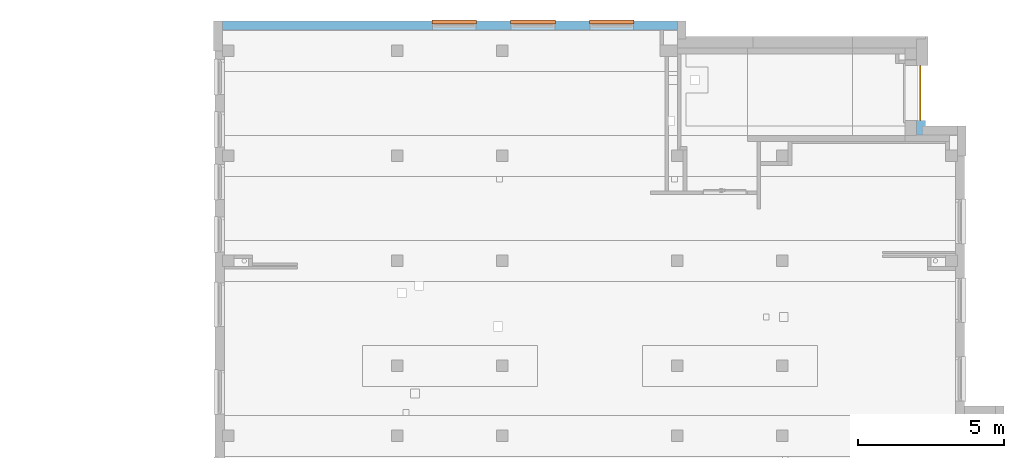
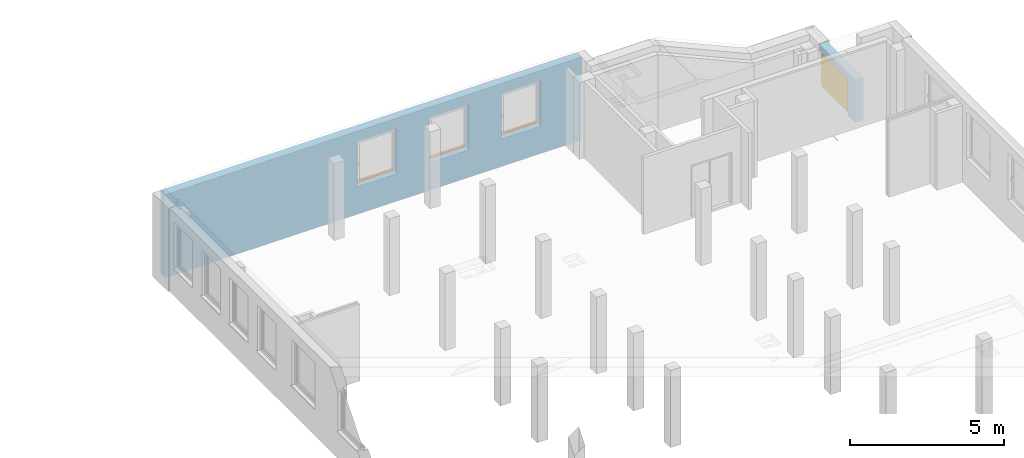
# One storey, part 25 of 27: 3 proxies, 1 window, 4 openings, plus 2 elements that do not belong to this part.
"""IFC4 building model written with IfcOpenShell, lengths in metres."""

from ifc_helpers import new_model, entity, si_unit, converted_unit, derived_unit, frame, frame_2d, origin, origin_with_axes, place, context, subcontext, project, spatial, polyline, rectangle, outline, extrude, faceted_brep, source, transform, mapped, material, layer, layer_set, layer_usage, element, fill, save


model = new_model("IFC4")

# Units and contexts
model_context = context("Model", 3, precision=1e-05, world=origin())
body_context = subcontext(model_context, "Body", "Model", "MODEL_VIEW")
ifc_project = project(units=[si_unit("LENGTHUNIT", "METRE"), si_unit("AREAUNIT", "SQUARE_METRE"), si_unit("VOLUMEUNIT", "CUBIC_METRE"), si_unit("MASSUNIT", "GRAM", prefix="KILO"), converted_unit("PLANEANGLEUNIT", "DEGREE", entity("IfcPlaneAngleMeasure", 0.0174532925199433), si_unit("PLANEANGLEUNIT", "RADIAN"), dimensions=[0, 0, 0, 0, 0, 0, 0]), derived_unit("THERMALTRANSMITTANCEUNIT", [(si_unit("POWERUNIT", "WATT"), 1), (si_unit("THERMODYNAMICTEMPERATUREUNIT", "KELVIN"), -1), (si_unit("LENGTHUNIT", "METRE"), -2)]), derived_unit("VOLUMETRICFLOWRATEUNIT", [(si_unit("LENGTHUNIT", "METRE"), 3), (converted_unit("TIMEUNIT", "hour", entity("IfcTimeMeasure", 3600.0), si_unit("TIMEUNIT", "SECOND"), dimensions=[0, 0, 1, 0, 0, 0, 0]), -1), (si_unit("LENGTHUNIT", "METRE"), -1)])], contexts=[model_context])

# Site, building, storey
site_placement = place(None, origin())
site = spatial("IfcSite", under=ifc_project, at=site_placement, Name="3. ASŘ", CompositionType="ELEMENT")
building_placement = place(site_placement, origin())
building = spatial("IfcBuilding", under=site, at=building_placement, Name="Pavilon C", CompositionType="ELEMENT")
storey_placement = place(building_placement, frame((0.0, 0.0, 10.5)))
storey = spatial("IfcBuildingStorey", under=building, at=storey_placement, Name="Půdorys 4.NP", CompositionType="ELEMENT", Elevation=10.5)

# Wall, openings, proxies
ifc_material_1 = material(Name="ZELEZOBETONOVÁ KCE")
ifc_layer_1 = layer(ifc_material_1, 0.3)
ifc_layer_set_1 = layer_set([ifc_layer_1])
ifc_layer_usage_1 = layer_usage(ifc_layer_set_1, "AXIS2", "POSITIVE", 0.0)
wall_1_placement = place(storey_placement, frame((40.35, 33.42, -0.1), z_axis=(0.0, 0.0, 1.0), x_axis=(-1.0, 0.0, 0.0)))
wall_1 = element("IfcWall", 1, at=wall_1_placement, inside=storey, material=ifc_layer_usage_1, Name="ZELEZOBETONOVÁ KCE", context=body_context, shape_type="SweptSolid", body=[
    extrude(rectangle(XDim=15.6, YDim=0.3, at=frame_2d((7.8, 0.15), x_axis=(1.0, 0.0))), origin_with_axes(), (0.0, 0.0, 1.0), 3.3),
])
opening_1_placement = place(wall_1_placement, frame((6.9, 0.0, 1.1), z_axis=(0.0, 1.0, 0.0), x_axis=(0.0, 0.0, 1.0)))
opening_1 = element("IfcOpeningElement", 2, at=opening_1_placement, cuts=wall_1, Name="Okenní otvor", ObjectType="Opening", context=body_context, shape_type="SweptSolid", body=[
    extrude(outline(polyline([(0.0, 1.5), (1.8, 1.5), (1.8, 0.0), (0.0, 0.0), (0.0, 1.5)])), origin_with_axes(), (0.0, 0.0, 1.0), 0.3),
])
opening_2_placement = place(wall_1_placement, frame((4.2, 0.0, 1.1), z_axis=(0.0, 1.0, 0.0), x_axis=(0.0, 0.0, 1.0)))
opening_2 = element("IfcOpeningElement", 3, at=opening_2_placement, cuts=wall_1, Name="Okenní otvor", ObjectType="Opening", context=body_context, shape_type="SweptSolid", body=[
    extrude(outline(polyline([(0.0, 1.5), (1.8, 1.5), (1.8, 0.0), (0.0, 0.0), (0.0, 1.5)])), origin_with_axes(), (0.0, 0.0, 1.0), 0.3),
])
opening_3_placement = place(wall_1_placement, frame((1.5, 0.0, 1.1), z_axis=(0.0, 1.0, 0.0), x_axis=(0.0, 0.0, 1.0)))
opening_3 = element("IfcOpeningElement", 4, at=opening_3_placement, cuts=wall_1, Name="Okenní otvor", ObjectType="Opening", context=body_context, shape_type="SweptSolid", body=[
    extrude(outline(polyline([(0.0, 1.5), (1.8, 1.5), (1.8, 0.0), (0.0, 0.0), (0.0, 1.5)])), origin_with_axes(), (0.0, 0.0, 1.0), 0.3),
])
ifc_material_2 = material(Name="PLECH")
shared_shape_1 = source(origin_with_axes(), body_context, "Body", "Brep", [
    faceted_brep([(0.0, 0.0, 0.0), (0.0, 0.1, 0.0), (0.0, 0.1, 0.005), (0.0, 0.0, 0.005), (1.5, 0.0, 0.0), (1.5, 0.0, 0.005), (1.5, 0.1, 0.005), (1.5, 0.1, 0.0), (-0.02, 0.0, 0.0), (-0.02, -0.035, 0.0), (1.52, -0.035, 0.0), (1.52, 0.0, 0.0), (1.52, 0.0, 0.005), (1.52, -0.04, 0.005), (-0.02, -0.04, 0.005), (-0.02, 0.0, 0.005), (-0.02, -0.04, -0.025), (-0.02, -0.035, -0.025), (1.52, -0.035, -0.025), (1.52, -0.04, -0.025)], [[[0, 1, 2, 3]], [[4, 5, 6, 7]], [[1, 0, 8, 9, 10, 11, 4, 7]], [[2, 1, 7, 6]], [[3, 2, 6, 5, 12, 13, 14, 15]], [[8, 15, 14, 16, 17, 9]], [[11, 10, 18, 19, 13, 12]], [[15, 8, 0, 3]], [[5, 4, 11, 12]], [[16, 14, 13, 19]], [[17, 16, 19, 18]], [[9, 17, 18, 10]]], orient=[[False], [False], [False], [False], [False], [False], [False], [False], [False], [False], [False], [False]]),
    faceted_brep([(-0.02, 0.0, 0.0), (-0.02, 0.1, 0.0), (-0.02, 0.1, 0.005), (-0.02, 0.0, 0.005), (0.0, 0.0, 0.0), (0.0, 0.0, 0.005), (0.0, 0.1, 0.005), (0.0, 0.1, 0.0)], [[[0, 1, 2, 3]], [[4, 5, 6, 7]], [[1, 0, 4, 7]], [[2, 1, 7, 6]], [[3, 2, 6, 5]], [[0, 3, 5, 4]]], orient=[[False], [False], [False], [False], [False], [False]]),
    faceted_brep([(1.5, 0.0, 0.0), (1.5, 0.1, 0.0), (1.5, 0.1, 0.005), (1.5, 0.0, 0.005), (1.52, 0.0, 0.0), (1.52, 0.0, 0.005), (1.52, 0.1, 0.005), (1.52, 0.1, 0.0)], [[[0, 1, 2, 3]], [[4, 5, 6, 7]], [[1, 0, 4, 7]], [[2, 1, 7, 6]], [[3, 2, 6, 5]], [[0, 3, 5, 4]]], orient=[[False], [False], [False], [False], [False], [False]]),
])
proxy_1_placement = place(opening_1_placement, frame((0.0, 0.0, 0.0), z_axis=(1.0, 0.0, 0.0), x_axis=(0.0, 1.0, 0.0)))
proxy_1 = element("IfcBuildingElementProxy", 5, at=proxy_1_placement, inside=storey, material=ifc_material_2, Name="Parapet vnější", context=body_context, shape_type="MappedRepresentation", body=[
    mapped(shared_shape_1, transform((0.0, 0.0, 0.0), x_axis=(1.0, 0.0, 0.0), y_axis=(0.0, 1.0, 0.0), z_axis=(0.0, 0.0, 1.0), scale=1.0)),
])
fill(opening_1, proxy_1)
ifc_material_3 = material(Name="PLECH")
shared_shape_2 = source(origin_with_axes(), body_context, "Body", "Brep", [
    faceted_brep([(0.0, 0.0, 0.0), (0.0, 0.1, 0.0), (0.0, 0.1, 0.005), (0.0, 0.0, 0.005), (1.5, 0.0, 0.0), (1.5, 0.0, 0.005), (1.5, 0.1, 0.005), (1.5, 0.1, 0.0), (-0.02, 0.0, 0.0), (-0.02, -0.035, 0.0), (1.52, -0.035, 0.0), (1.52, 0.0, 0.0), (1.52, 0.0, 0.005), (1.52, -0.04, 0.005), (-0.02, -0.04, 0.005), (-0.02, 0.0, 0.005), (-0.02, -0.04, -0.025), (-0.02, -0.035, -0.025), (1.52, -0.035, -0.025), (1.52, -0.04, -0.025)], [[[0, 1, 2, 3]], [[4, 5, 6, 7]], [[1, 0, 8, 9, 10, 11, 4, 7]], [[2, 1, 7, 6]], [[3, 2, 6, 5, 12, 13, 14, 15]], [[8, 15, 14, 16, 17, 9]], [[11, 10, 18, 19, 13, 12]], [[15, 8, 0, 3]], [[5, 4, 11, 12]], [[16, 14, 13, 19]], [[17, 16, 19, 18]], [[9, 17, 18, 10]]], orient=[[False], [False], [False], [False], [False], [False], [False], [False], [False], [False], [False], [False]]),
    faceted_brep([(-0.02, 0.0, 0.0), (-0.02, 0.1, 0.0), (-0.02, 0.1, 0.005), (-0.02, 0.0, 0.005), (0.0, 0.0, 0.0), (0.0, 0.0, 0.005), (0.0, 0.1, 0.005), (0.0, 0.1, 0.0)], [[[0, 1, 2, 3]], [[4, 5, 6, 7]], [[1, 0, 4, 7]], [[2, 1, 7, 6]], [[3, 2, 6, 5]], [[0, 3, 5, 4]]], orient=[[False], [False], [False], [False], [False], [False]]),
    faceted_brep([(1.5, 0.0, 0.0), (1.5, 0.1, 0.0), (1.5, 0.1, 0.005), (1.5, 0.0, 0.005), (1.52, 0.0, 0.0), (1.52, 0.0, 0.005), (1.52, 0.1, 0.005), (1.52, 0.1, 0.0)], [[[0, 1, 2, 3]], [[4, 5, 6, 7]], [[1, 0, 4, 7]], [[2, 1, 7, 6]], [[3, 2, 6, 5]], [[0, 3, 5, 4]]], orient=[[False], [False], [False], [False], [False], [False]]),
])
proxy_2_placement = place(opening_2_placement, frame((0.0, 0.0, 0.0), z_axis=(1.0, 0.0, 0.0), x_axis=(0.0, 1.0, 0.0)))
proxy_2 = element("IfcBuildingElementProxy", 6, at=proxy_2_placement, inside=storey, material=ifc_material_3, Name="Parapet vnější", context=body_context, shape_type="MappedRepresentation", body=[
    mapped(shared_shape_2, transform((0.0, 0.0, 0.0), x_axis=(1.0, 0.0, 0.0), y_axis=(0.0, 1.0, 0.0), z_axis=(0.0, 0.0, 1.0), scale=1.0)),
])
fill(opening_2, proxy_2)
ifc_material_4 = material(Name="PLECH")
shared_shape_3 = source(origin_with_axes(), body_context, "Body", "Brep", [
    faceted_brep([(0.0, 0.0, 0.0), (0.0, 0.1, 0.0), (0.0, 0.1, 0.005), (0.0, 0.0, 0.005), (1.5, 0.0, 0.0), (1.5, 0.0, 0.005), (1.5, 0.1, 0.005), (1.5, 0.1, 0.0), (-0.02, 0.0, 0.0), (-0.02, -0.035, 0.0), (1.52, -0.035, 0.0), (1.52, 0.0, 0.0), (1.52, 0.0, 0.005), (1.52, -0.04, 0.005), (-0.02, -0.04, 0.005), (-0.02, 0.0, 0.005), (-0.02, -0.04, -0.025), (-0.02, -0.035, -0.025), (1.52, -0.035, -0.025), (1.52, -0.04, -0.025)], [[[0, 1, 2, 3]], [[4, 5, 6, 7]], [[1, 0, 8, 9, 10, 11, 4, 7]], [[2, 1, 7, 6]], [[3, 2, 6, 5, 12, 13, 14, 15]], [[8, 15, 14, 16, 17, 9]], [[11, 10, 18, 19, 13, 12]], [[15, 8, 0, 3]], [[5, 4, 11, 12]], [[16, 14, 13, 19]], [[17, 16, 19, 18]], [[9, 17, 18, 10]]], orient=[[False], [False], [False], [False], [False], [False], [False], [False], [False], [False], [False], [False]]),
    faceted_brep([(-0.02, 0.0, 0.0), (-0.02, 0.1, 0.0), (-0.02, 0.1, 0.005), (-0.02, 0.0, 0.005), (0.0, 0.0, 0.0), (0.0, 0.0, 0.005), (0.0, 0.1, 0.005), (0.0, 0.1, 0.0)], [[[0, 1, 2, 3]], [[4, 5, 6, 7]], [[1, 0, 4, 7]], [[2, 1, 7, 6]], [[3, 2, 6, 5]], [[0, 3, 5, 4]]], orient=[[False], [False], [False], [False], [False], [False]]),
    faceted_brep([(1.5, 0.0, 0.0), (1.5, 0.1, 0.0), (1.5, 0.1, 0.005), (1.5, 0.0, 0.005), (1.52, 0.0, 0.0), (1.52, 0.0, 0.005), (1.52, 0.1, 0.005), (1.52, 0.1, 0.0)], [[[0, 1, 2, 3]], [[4, 5, 6, 7]], [[1, 0, 4, 7]], [[2, 1, 7, 6]], [[3, 2, 6, 5]], [[0, 3, 5, 4]]], orient=[[False], [False], [False], [False], [False], [False]]),
])
proxy_3_placement = place(opening_3_placement, frame((0.0, 0.0, 0.0), z_axis=(1.0, 0.0, 0.0), x_axis=(0.0, 1.0, 0.0)))
proxy_3 = element("IfcBuildingElementProxy", 7, at=proxy_3_placement, inside=storey, material=ifc_material_4, Name="Parapet vnější", context=body_context, shape_type="MappedRepresentation", body=[
    mapped(shared_shape_3, transform((0.0, 0.0, 0.0), x_axis=(1.0, 0.0, 0.0), y_axis=(0.0, 1.0, 0.0), z_axis=(0.0, 0.0, 1.0), scale=1.0)),
])
fill(opening_3, proxy_3)

# Wall, opening, window
ifc_material_5 = material(Name="ZDIVO Z CDm")
ifc_layer_2 = layer(ifc_material_5, 0.3)
ifc_layer_set_2 = layer_set([ifc_layer_2])
ifc_layer_usage_2 = layer_usage(ifc_layer_set_2, "AXIS2", "POSITIVE", 0.0)
wall_2_placement = place(storey_placement, frame((48.85, 29.52, -0.1), z_axis=(0.0, 0.0, 1.0), x_axis=(0.0, 1.0, 0.0)))
wall_2 = element("IfcWall", 8, at=wall_2_placement, inside=storey, material=ifc_layer_usage_2, Name="ZDIVO Z CDm", context=body_context, shape_type="SweptSolid", body=[
    extrude(rectangle(XDim=2.375, YDim=0.3, at=frame_2d((1.1875, 0.15), x_axis=(1.0, 0.0))), origin_with_axes(), (0.0, 0.0, 1.0), 1.7),
])
opening_4_placement = place(wall_2_placement, frame((0.499999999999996, 0.0, 0.0), z_axis=(0.0, 1.0, 0.0), x_axis=(0.0, 0.0, 1.0)))
opening_4 = element("IfcOpeningElement", 9, at=opening_4_placement, cuts=wall_2, Name="Okenní otvor", ObjectType="Opening", context=body_context, shape_type="SweptSolid", body=[
    extrude(outline(polyline([(0.0, 1.875), (1.45, 1.875), (1.45, 0.0), (0.0, 0.0), (0.0, 1.875)])), origin_with_axes(), (0.0, 0.0, 1.0), 0.3),
])
shared_shape_4 = source(origin_with_axes(), body_context, "Body", "Brep", [
    faceted_brep([(0.0, 0.0600000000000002, 1.45), (0.0, 0.06, 3.43148696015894e-18), (0.06, 0.06, 3.43148696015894e-18), (0.06, 0.0600000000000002, 1.45), (0.0, 0.0, 1.07793677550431e-17), (0.0, 1.77635683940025e-16, 1.45), (0.06, 1.77635683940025e-16, 1.45), (0.06, 0.0, 1.07793677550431e-17)], [[[0, 1, 2, 3]], [[4, 5, 6, 7]], [[1, 0, 5, 4]], [[2, 1, 4, 7]], [[3, 2, 7, 6]], [[0, 3, 6, 5]]], orient=[[False], [False], [False], [False], [False], [False]]),
    faceted_brep([(1.815, 0.0600000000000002, 1.45), (1.815, 0.06, 3.43148696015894e-18), (1.875, 0.06, 3.43148696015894e-18), (1.875, 0.0600000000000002, 1.45), (1.815, 0.0, 1.07793677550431e-17), (1.815, 1.77635683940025e-16, 1.45), (1.875, 1.77635683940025e-16, 1.45), (1.875, 0.0, 1.07793677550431e-17)], [[[0, 1, 2, 3]], [[4, 5, 6, 7]], [[1, 0, 5, 4]], [[2, 1, 4, 7]], [[3, 2, 7, 6]], [[0, 3, 6, 5]]], orient=[[False], [False], [False], [False], [False], [False]]),
    faceted_brep([(0.06, 0.06, 0.06), (0.06, 0.06, 3.43148696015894e-18), (1.815, 0.06, 3.43148696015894e-18), (1.815, 0.06, 0.06), (0.06, 0.0, 1.07793677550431e-17), (0.06, 7.105427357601e-18, 0.06), (1.815, 7.105427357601e-18, 0.06), (1.815, 0.0, 1.07793677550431e-17)], [[[0, 1, 2, 3]], [[4, 5, 6, 7]], [[1, 0, 5, 4]], [[2, 1, 4, 7]], [[3, 2, 7, 6]], [[0, 3, 6, 5]]], orient=[[False], [False], [False], [False], [False], [False]]),
    faceted_brep([(0.06, 0.0600000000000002, 1.45), (0.06, 0.0600000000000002, 1.39), (1.815, 0.0600000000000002, 1.39), (1.815, 0.0600000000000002, 1.45), (0.06, 1.70530256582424e-16, 1.39), (0.06, 1.77635683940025e-16, 1.45), (1.815, 1.77635683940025e-16, 1.45), (1.815, 1.70530256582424e-16, 1.39)], [[[0, 1, 2, 3]], [[4, 5, 6, 7]], [[1, 0, 5, 4]], [[2, 1, 4, 7]], [[3, 2, 7, 6]], [[0, 3, 6, 5]]], orient=[[False], [False], [False], [False], [False], [False]]),
    faceted_brep([(0.302142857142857, 0.0600000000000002, 1.39), (0.302142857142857, 0.06, 0.06), (0.312142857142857, 0.06, 0.06), (0.312142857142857, 0.0600000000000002, 1.39), (0.302142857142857, 3.5527136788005e-18, 0.06), (0.302142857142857, 1.66977542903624e-16, 1.39), (0.312142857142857, 1.66977542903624e-16, 1.39), (0.312142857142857, 3.5527136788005e-18, 0.06)], [[[0, 1, 2, 3]], [[4, 5, 6, 7]], [[1, 0, 5, 4]], [[2, 1, 4, 7]], [[3, 2, 7, 6]], [[0, 3, 6, 5]]], orient=[[False], [False], [False], [False], [False], [False]]),
    faceted_brep([(0.554285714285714, 0.0600000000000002, 1.39), (0.554285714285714, 0.06, 0.06), (0.564285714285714, 0.06, 0.06), (0.564285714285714, 0.0600000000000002, 1.39), (0.554285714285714, 3.5527136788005e-18, 0.06), (0.554285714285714, 1.66977542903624e-16, 1.39), (0.564285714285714, 1.66977542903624e-16, 1.39), (0.564285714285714, 3.5527136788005e-18, 0.06)], [[[0, 1, 2, 3]], [[4, 5, 6, 7]], [[1, 0, 5, 4]], [[2, 1, 4, 7]], [[3, 2, 7, 6]], [[0, 3, 6, 5]]], orient=[[False], [False], [False], [False], [False], [False]]),
    faceted_brep([(0.806428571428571, 0.0600000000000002, 1.39), (0.806428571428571, 0.06, 0.06), (0.816428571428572, 0.06, 0.06), (0.816428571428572, 0.0600000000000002, 1.39), (0.806428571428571, 3.5527136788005e-18, 0.06), (0.806428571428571, 1.66977542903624e-16, 1.39), (0.816428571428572, 1.66977542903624e-16, 1.39), (0.816428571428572, 3.5527136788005e-18, 0.06)], [[[0, 1, 2, 3]], [[4, 5, 6, 7]], [[1, 0, 5, 4]], [[2, 1, 4, 7]], [[3, 2, 7, 6]], [[0, 3, 6, 5]]], orient=[[False], [False], [False], [False], [False], [False]]),
    faceted_brep([(1.05857142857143, 0.0600000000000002, 1.39), (1.05857142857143, 0.06, 0.06), (1.06857142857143, 0.06, 0.06), (1.06857142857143, 0.0600000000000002, 1.39), (1.05857142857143, 3.5527136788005e-18, 0.06), (1.05857142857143, 1.66977542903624e-16, 1.39), (1.06857142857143, 1.66977542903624e-16, 1.39), (1.06857142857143, 3.5527136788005e-18, 0.06)], [[[0, 1, 2, 3]], [[4, 5, 6, 7]], [[1, 0, 5, 4]], [[2, 1, 4, 7]], [[3, 2, 7, 6]], [[0, 3, 6, 5]]], orient=[[False], [False], [False], [False], [False], [False]]),
    faceted_brep([(1.31071428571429, 0.0600000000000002, 1.39), (1.31071428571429, 0.06, 0.06), (1.32071428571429, 0.06, 0.06), (1.32071428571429, 0.0600000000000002, 1.39), (1.31071428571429, 3.5527136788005e-18, 0.06), (1.31071428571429, 1.66977542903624e-16, 1.39), (1.32071428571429, 1.66977542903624e-16, 1.39), (1.32071428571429, 3.5527136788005e-18, 0.06)], [[[0, 1, 2, 3]], [[4, 5, 6, 7]], [[1, 0, 5, 4]], [[2, 1, 4, 7]], [[3, 2, 7, 6]], [[0, 3, 6, 5]]], orient=[[False], [False], [False], [False], [False], [False]]),
    faceted_brep([(1.56285714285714, 0.0600000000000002, 1.39), (1.56285714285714, 0.06, 0.06), (1.57285714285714, 0.06, 0.06), (1.57285714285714, 0.0600000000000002, 1.39), (1.56285714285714, 3.5527136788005e-18, 0.06), (1.56285714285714, 1.66977542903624e-16, 1.39), (1.57285714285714, 1.66977542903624e-16, 1.39), (1.57285714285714, 3.5527136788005e-18, 0.06)], [[[0, 1, 2, 3]], [[4, 5, 6, 7]], [[1, 0, 5, 4]], [[2, 1, 4, 7]], [[3, 2, 7, 6]], [[0, 3, 6, 5]]], orient=[[False], [False], [False], [False], [False], [False]]),
    faceted_brep([(0.06, 0.0600000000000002, 1.39), (0.06, 0.06, 0.06), (1.815, 0.06, 0.06), (1.815, 0.0600000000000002, 1.39), (0.06, 3.5527136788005e-18, 0.06), (0.06, 1.66977542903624e-16, 1.39), (1.815, 1.66977542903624e-16, 1.39), (1.815, 3.5527136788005e-18, 0.06)], [[[0, 1, 2, 3]], [[4, 5, 6, 7]], [[1, 0, 5, 4]], [[2, 1, 4, 7]], [[3, 2, 7, 6]], [[0, 3, 6, 5]]], orient=[[False], [False], [False], [False], [False], [False]]),
])
window_placement = place(opening_4_placement, frame((0.0, 1.87499999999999, 0.200000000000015), z_axis=(1.0, 0.0, 0.0), x_axis=(0.0, -1.0, 2.44929359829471e-16)))
window = element("IfcWindow", 10, at=window_placement, inside=storey, Name="O06", OverallHeight=1.45, OverallWidth=1.875, PartitioningType="USERDEFINED", PredefinedType="WINDOW", context=body_context, shape_type="MappedRepresentation", body=[
    mapped(shared_shape_4, transform((0.0, 0.0, 0.0), x_axis=(1.0, 0.0, 0.0), y_axis=(0.0, 1.0, 0.0), z_axis=(0.0, 0.0, 1.0), scale=1.0)),
])
fill(opening_4, window)

save(model, "model.ifc")
